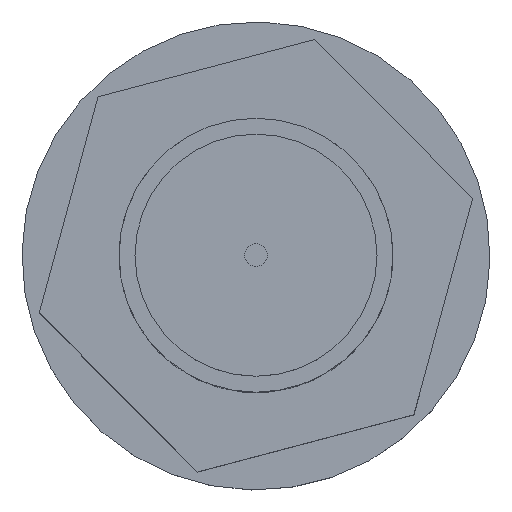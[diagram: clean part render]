
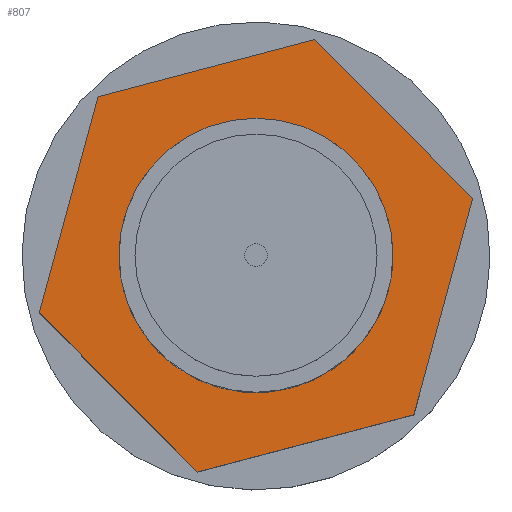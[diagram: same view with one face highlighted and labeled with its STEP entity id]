
A CAD part, top view. The second image highlights one B-rep face of the part: STEP entity #807.
In plain terms, the highlighted planar face has unit normal (0, 0, 1) as drawn and (1, 0, 0) by its records, which use the part's own axes.
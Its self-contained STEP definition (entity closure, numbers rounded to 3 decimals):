
#15 = DIRECTION ( 'NONE',  ( 0., 0., 1. ) ) ;
#32 = CARTESIAN_POINT ( 'NONE',  ( 4., -8.5, 4.907 ) ) ;
#82 = LINE ( 'NONE', #1633, #1188 ) ;
#90 = CARTESIAN_POINT ( 'NONE',  ( 4., 8.5, 4.907 ) ) ;
#100 = CARTESIAN_POINT ( 'NONE',  ( 4., 0., -9.815 ) ) ;
#137 = EDGE_CURVE ( 'NONE', #671, #1719, #1387, .T. ) ;
#140 = VECTOR ( 'NONE', #1563, 1000. ) ;
#149 = EDGE_LOOP ( 'NONE', ( #797, #928, #1106, #782, #1181, #1574 ) ) ;
#153 = CARTESIAN_POINT ( 'NONE',  ( 4., 0., 9.815 ) ) ;
#154 = DIRECTION ( 'NONE',  ( 0., 0., 1. ) ) ;
#199 = AXIS2_PLACEMENT_3D ( 'NONE', #887, #720, #534 ) ;
#202 = DIRECTION ( 'NONE',  ( 1., 0., 0. ) ) ;
#210 = VECTOR ( 'NONE', #1657, 1000. ) ;
#251 = ORIENTED_EDGE ( 'NONE', *, *, #1212, .F. ) ;
#259 = CARTESIAN_POINT ( 'NONE',  ( 4., 0., -9.815 ) ) ;
#275 = LINE ( 'NONE', #100, #210 ) ;
#327 = DIRECTION ( 'NONE',  ( 0., 0., -1. ) ) ;
#339 = CARTESIAN_POINT ( 'NONE',  ( 4., 8.5, 0. ) ) ;
#418 = CIRCLE ( 'NONE', #199, 6. ) ;
#508 = CARTESIAN_POINT ( 'NONE',  ( 4., -8.5, 0. ) ) ;
#534 = DIRECTION ( 'NONE',  ( 0., 0., 1. ) ) ;
#540 = VECTOR ( 'NONE', #575, 1000. ) ;
#562 = CARTESIAN_POINT ( 'NONE',  ( 4., 0., 0. ) ) ;
#566 = VERTEX_POINT ( 'NONE', #1518 ) ;
#575 = DIRECTION ( 'NONE',  ( 0., 0.866, -0.5 ) ) ;
#671 = VERTEX_POINT ( 'NONE', #153 ) ;
#679 = LINE ( 'NONE', #508, #900 ) ;
#694 = LINE ( 'NONE', #339, #712 ) ;
#712 = VECTOR ( 'NONE', #154, 1000. ) ;
#720 = DIRECTION ( 'NONE',  ( 1., 0., 0. ) ) ;
#722 = VERTEX_POINT ( 'NONE', #1265 ) ;
#755 = CARTESIAN_POINT ( 'NONE',  ( 4., -8.5, -4.907 ) ) ;
#782 = ORIENTED_EDGE ( 'NONE', *, *, #1064, .T. ) ;
#797 = ORIENTED_EDGE ( 'NONE', *, *, #1481, .T. ) ;
#807 = ADVANCED_FACE ( 'NONE', ( #1557, #1660 ), #1493, .T. ) ;
#817 = EDGE_CURVE ( 'NONE', #953, #671, #82, .T. ) ;
#887 = CARTESIAN_POINT ( 'NONE',  ( 4., 0., 0. ) ) ;
#900 = VECTOR ( 'NONE', #327, 1000. ) ;
#917 = LINE ( 'NONE', #755, #540 ) ;
#920 = EDGE_LOOP ( 'NONE', ( #251, #1674 ) ) ;
#928 = ORIENTED_EDGE ( 'NONE', *, *, #817, .T. ) ;
#953 = VERTEX_POINT ( 'NONE', #90 ) ;
#963 = DIRECTION ( 'NONE',  ( 0., 0., -1. ) ) ;
#1042 = CIRCLE ( 'NONE', #1413, 6. ) ;
#1064 = EDGE_CURVE ( 'NONE', #1719, #1192, #679, .T. ) ;
#1106 = ORIENTED_EDGE ( 'NONE', *, *, #137, .T. ) ;
#1151 = VERTEX_POINT ( 'NONE', #259 ) ;
#1152 = DIRECTION ( 'NONE',  ( 1., 0., 0. ) ) ;
#1181 = ORIENTED_EDGE ( 'NONE', *, *, #1692, .T. ) ;
#1188 = VECTOR ( 'NONE', #1449, 1000. ) ;
#1192 = VERTEX_POINT ( 'NONE', #1276 ) ;
#1212 = EDGE_CURVE ( 'NONE', #1663, #566, #418, .T. ) ;
#1265 = CARTESIAN_POINT ( 'NONE',  ( 4., 8.5, -4.907 ) ) ;
#1276 = CARTESIAN_POINT ( 'NONE',  ( 4., -8.5, -4.907 ) ) ;
#1309 = CARTESIAN_POINT ( 'NONE',  ( 4., -8.5, 9.933 ) ) ;
#1385 = EDGE_CURVE ( 'NONE', #1151, #722, #275, .T. ) ;
#1387 = LINE ( 'NONE', #1396, #140 ) ;
#1396 = CARTESIAN_POINT ( 'NONE',  ( 4., 0., 9.815 ) ) ;
#1413 = AXIS2_PLACEMENT_3D ( 'NONE', #562, #202, #15 ) ;
#1444 = CARTESIAN_POINT ( 'NONE',  ( 4., 0., 6. ) ) ;
#1449 = DIRECTION ( 'NONE',  ( 0., -0.866, 0.5 ) ) ;
#1481 = EDGE_CURVE ( 'NONE', #722, #953, #694, .T. ) ;
#1493 = PLANE ( 'NONE',  #1696 ) ;
#1518 = CARTESIAN_POINT ( 'NONE',  ( 4., 0., -6. ) ) ;
#1557 = FACE_BOUND ( 'NONE', #920, .T. ) ;
#1563 = DIRECTION ( 'NONE',  ( 0., -0.866, -0.5 ) ) ;
#1574 = ORIENTED_EDGE ( 'NONE', *, *, #1385, .T. ) ;
#1586 = EDGE_CURVE ( 'NONE', #566, #1663, #1042, .T. ) ;
#1633 = CARTESIAN_POINT ( 'NONE',  ( 4., 8.5, 4.907 ) ) ;
#1657 = DIRECTION ( 'NONE',  ( 0., 0.866, 0.5 ) ) ;
#1660 = FACE_OUTER_BOUND ( 'NONE', #149, .T. ) ;
#1663 = VERTEX_POINT ( 'NONE', #1444 ) ;
#1674 = ORIENTED_EDGE ( 'NONE', *, *, #1586, .F. ) ;
#1692 = EDGE_CURVE ( 'NONE', #1192, #1151, #917, .T. ) ;
#1696 = AXIS2_PLACEMENT_3D ( 'NONE', #1309, #1152, #963 ) ;
#1719 = VERTEX_POINT ( 'NONE', #32 ) ;
